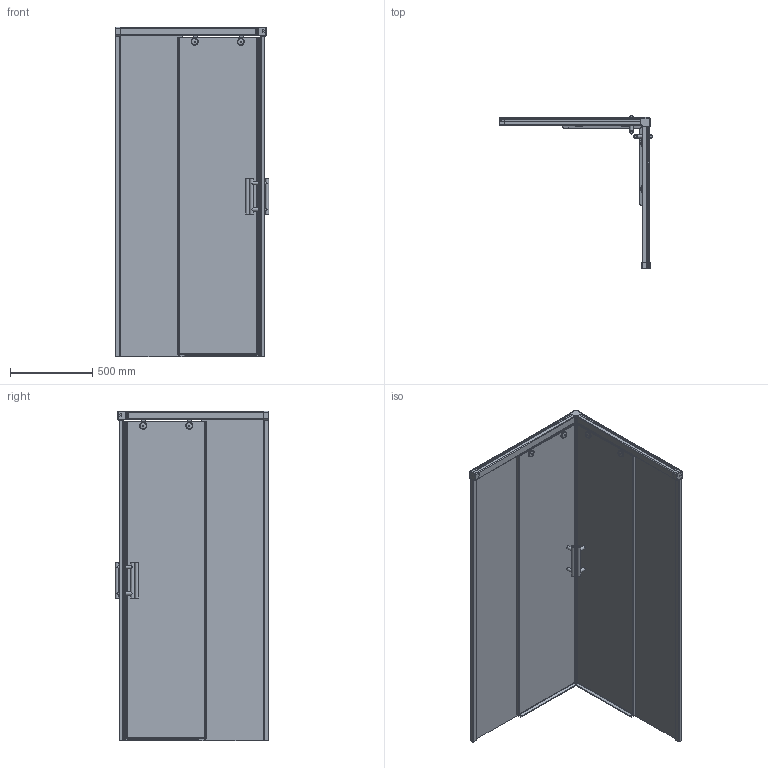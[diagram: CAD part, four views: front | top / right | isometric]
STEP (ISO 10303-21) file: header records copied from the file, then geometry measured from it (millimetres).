
FILE_DESCRIPTION(/* description */ (''),/* implementation_level */ '2;1');
FILE_NAME(/* name */ 'D:\88\SLIDE SQUARE GK-864\SLIDE SQUARE GK-864-3D.stp',/* time_stamp */ '2020-09-26T10:41:11+03:00',/* author */ ('User'),/* organization */ (''),/* preprocessor_version */ 'ST-DEVELOPER v15.2',/* originating_system */ 'Autodesk Inventor 2014',/* authorisation */ '');
FILE_SCHEMA (('AUTOMOTIVE_DESIGN { 1 0 10303 214 3 1 1 }'));
Length unit declared in the file: millimetre
Products named in the file (1): SLIDE SQUARE GK-864-3D
Bounding box: 930.4 x 930.4 x 2001.5 mm (x, y, z)
Volume: 31158156.6 mm3; surface area: 8211180.9 mm2
Topology: 2 solids, 22 shells, 1216 faces, 3180 edges, 2014 vertices
Faces by surface type: plane 777, cylinder 368, torus 48, bspline 21, cone 2
Full cylindrical faces by diameter (mm): 11 x4, 15.5 x4, 16 x4, 20 x12, 37 x8, 42 x8
Entity records: 38788 total; most frequent: CARTESIAN_POINT 7715, ORIENTED_EDGE 6208, DIRECTION 6106, EDGE_CURVE 3092, LINE 2190, VECTOR 2190, VERTEX_POINT 1994, AXIS2_PLACEMENT_3D 1958
